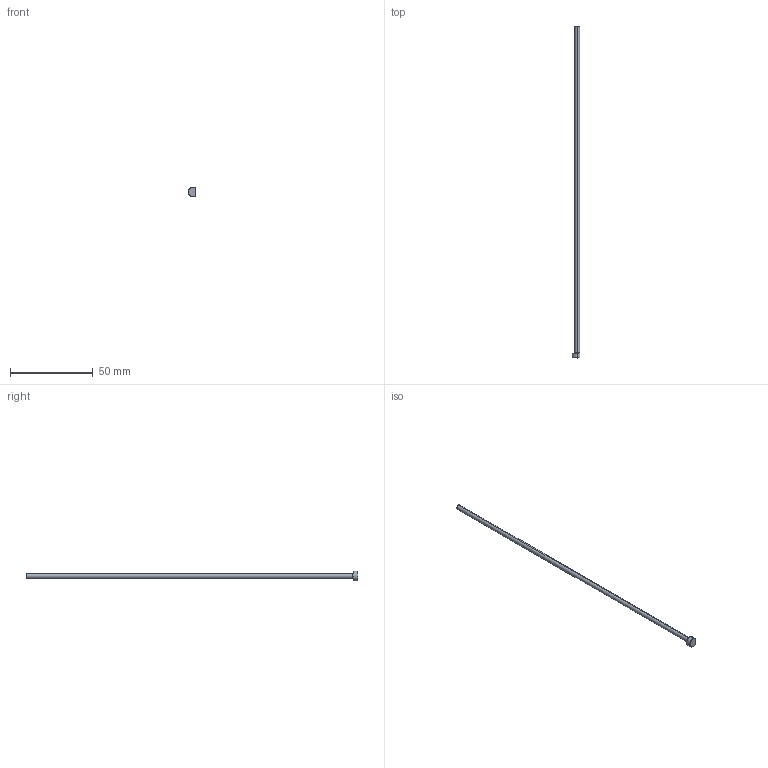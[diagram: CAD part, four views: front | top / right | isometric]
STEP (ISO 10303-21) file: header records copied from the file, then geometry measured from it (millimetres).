
FILE_DESCRIPTION (( 'STEP AP203' ), '1' );
FILE_NAME ('EPD03L200-K.step', '2022-04-04T19:04:08', ( 'Microsoft Corporation' ), ( 'MS' ), 'SwSTEP 2.0', 'SolidWorks 2019', '' );
FILE_SCHEMA (( 'CONFIG_CONTROL_DESIGN' ));
Length unit declared in the file: millimetre
Products named in the file (1): EPD03L200-K
Bounding box: 4.5 x 200 x 6 mm (x, y, z)
Volume: 1460.3 mm3; surface area: 1951.7 mm2
Topology: 1 solids, 1 shells, 18 faces, 41 edges, 25 vertices
Faces by surface type: cone 6, cylinder 5, plane 4, torus 3
Entity records: 598 total; most frequent: CARTESIAN_POINT 107, DIRECTION 95, ORIENTED_EDGE 82, AXIS2_PLACEMENT_3D 41, EDGE_CURVE 41, VERTEX_POINT 25, CIRCLE 22, ADVANCED_FACE 18
